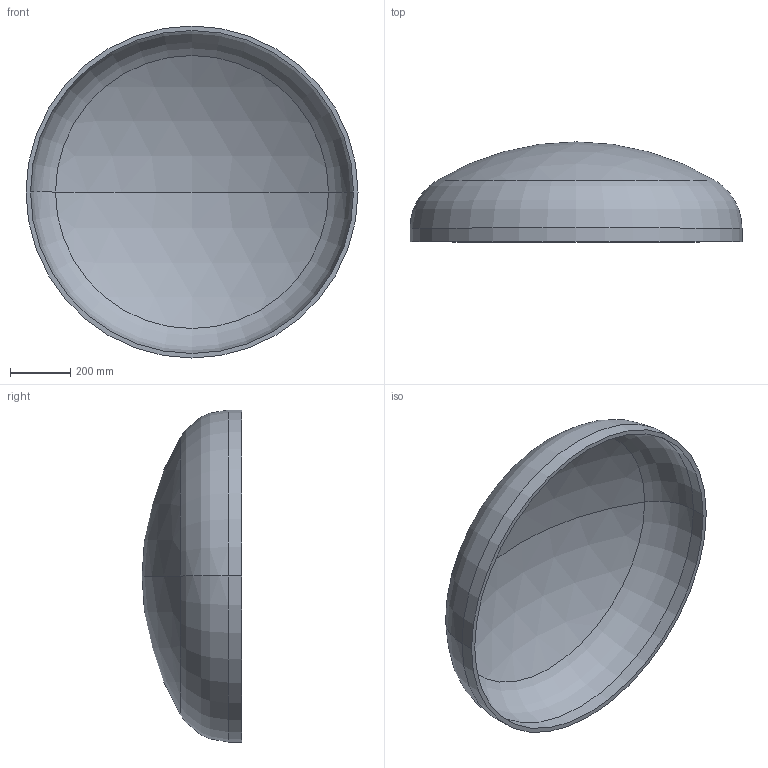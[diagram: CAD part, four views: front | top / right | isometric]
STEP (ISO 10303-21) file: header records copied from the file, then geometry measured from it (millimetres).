
FILE_DESCRIPTION (( 'STEP AP203' ), '1' );
FILE_NAME ('DIN 28013 Korbbogenform_-_Boden DIN 28013 - 1100 x 45 - I - s=15.step', '2016-07-01T09:01:59', ( '' ), ( '' ), 'SwSTEP 2.0', 'SolidWorks 2013', '' );
FILE_SCHEMA (( 'CONFIG_CONTROL_DESIGN' ));
Length unit declared in the file: millimetre
Products named in the file (1): DIN 28013 Korbbogenform_-_Boden DIN 28013 - 1100 x 45 - I - s=15
Bounding box: 1100 x 331 x 1100 mm (x, y, z)
Volume: 21704721.5 mm3; surface area: 2945562.5 mm2
Topology: 1 solids, 1 shells, 13 faces, 24 edges, 14 vertices
Faces by surface type: torus 4, cylinder 4, sphere 4, plane 1
Entity records: 407 total; most frequent: DIRECTION 72, CARTESIAN_POINT 52, ORIENTED_EDGE 48, AXIS2_PLACEMENT_3D 34, EDGE_CURVE 24, CIRCLE 20, VERTEX_POINT 14, EDGE_LOOP 14
